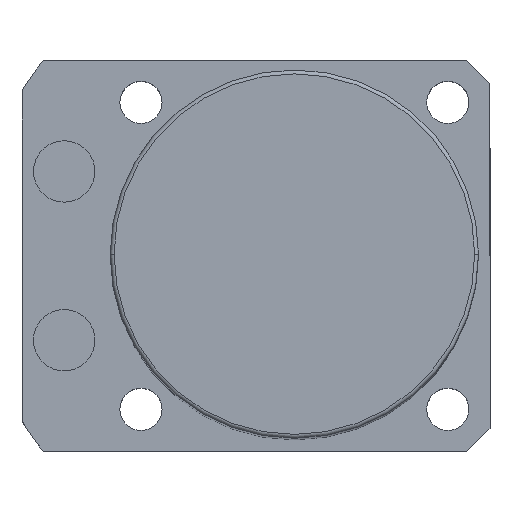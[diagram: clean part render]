
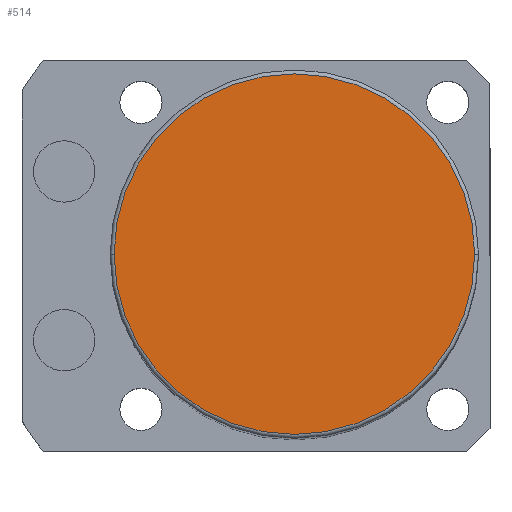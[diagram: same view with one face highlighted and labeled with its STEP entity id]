
A CAD part, top view. The second image highlights one B-rep face of the part: STEP entity #514.
In plain terms, the highlighted planar face has unit normal (0, 0, 1).
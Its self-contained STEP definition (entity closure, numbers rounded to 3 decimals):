
#239 = EDGE_LOOP ( 'NONE', ( #2686, #1527 ) ) ;
#249 = FACE_OUTER_BOUND ( 'NONE', #239, .T. ) ;
#514 = ADVANCED_FACE ( 'NONE', ( #249 ), #547, .T. ) ;
#521 = EDGE_CURVE ( 'NONE', #1365, #600, #1282, .T. ) ;
#539 = EDGE_CURVE ( 'NONE', #600, #1365, #2147, .T. ) ;
#547 = PLANE ( 'NONE',  #2247 ) ;
#600 = VERTEX_POINT ( 'NONE', #801 ) ;
#763 = AXIS2_PLACEMENT_3D ( 'NONE', #1036, #1452, #1897 ) ;
#801 = CARTESIAN_POINT ( 'NONE',  ( -23.5, 0., 141. ) ) ;
#982 = CARTESIAN_POINT ( 'NONE',  ( 0., 0., 141. ) ) ;
#1012 = DIRECTION ( 'NONE',  ( 0., 0., 1. ) ) ;
#1036 = CARTESIAN_POINT ( 'NONE',  ( 0., 0., 141. ) ) ;
#1181 = CARTESIAN_POINT ( 'NONE',  ( 23.5, 0., 141. ) ) ;
#1209 = DIRECTION ( 'NONE',  ( 1., 0., 0. ) ) ;
#1282 = CIRCLE ( 'NONE', #2096, 23.5 ) ;
#1365 = VERTEX_POINT ( 'NONE', #1181 ) ;
#1452 = DIRECTION ( 'NONE',  ( 0., 0., 1. ) ) ;
#1527 = ORIENTED_EDGE ( 'NONE', *, *, #539, .T. ) ;
#1897 = DIRECTION ( 'NONE',  ( 1., 0., 0. ) ) ;
#2096 = AXIS2_PLACEMENT_3D ( 'NONE', #2303, #2739, #2719 ) ;
#2147 = CIRCLE ( 'NONE', #763, 23.5 ) ;
#2247 = AXIS2_PLACEMENT_3D ( 'NONE', #982, #1012, #1209 ) ;
#2303 = CARTESIAN_POINT ( 'NONE',  ( 0., 0., 141. ) ) ;
#2686 = ORIENTED_EDGE ( 'NONE', *, *, #521, .T. ) ;
#2719 = DIRECTION ( 'NONE',  ( 1., 0., 0. ) ) ;
#2739 = DIRECTION ( 'NONE',  ( 0., 0., 1. ) ) ;
